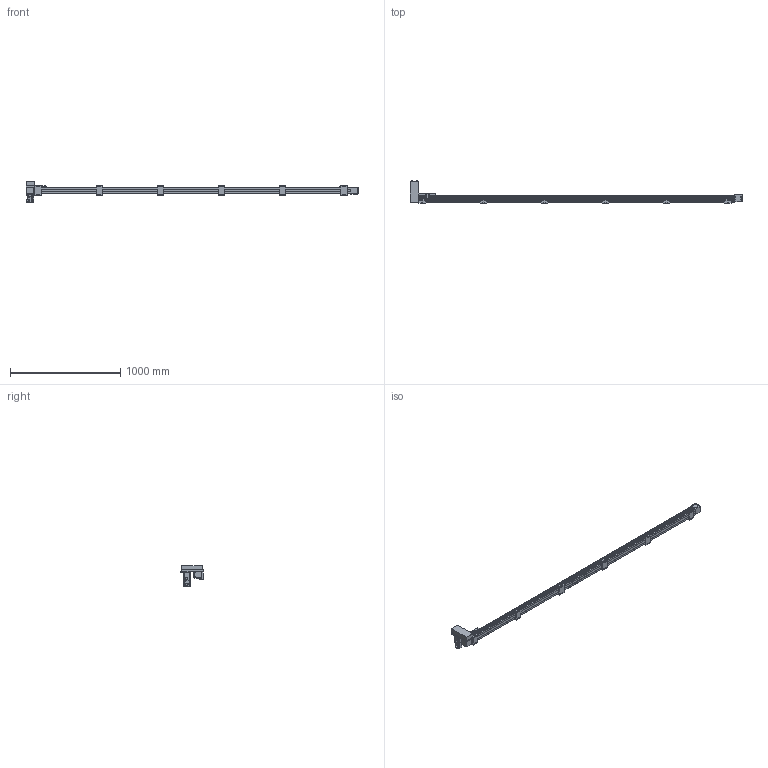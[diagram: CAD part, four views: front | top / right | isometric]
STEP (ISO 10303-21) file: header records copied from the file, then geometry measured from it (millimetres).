
FILE_DESCRIPTION(/* description */ ('STEP AP214'),/* implementation_level */ '2;1');
FILE_NAME(/* name */ 'SK60-P13-S2700-RU-T40-C1-N(0)',/* time_stamp */ '2023-04-06T05:05:48+02:00',/* author */ ('License CC BY-ND 4.0'),/* organization */ ('CADENAS'),/* preprocessor_version */ 'ST-DEVELOPER v19.3',/* originating_system */ 'PARTsolutions',/* authorisation */ ' ');
FILE_SCHEMA (('AUTOMOTIVE_DESIGN {1 0 10303 214 3 1 1}'));
Length unit declared in the file: millimetre
Products named in the file (10): SK60-P13-S2700-RU-T40-C1-N(0); PSC140-sensor; SK60-S450_seat; SK60-S450-BL-C1_slider; SK60_body3; SK60_body6; SK60-BL_body2; T40-p1; SK60-RU_fb; SK60-S2700-RU-C1_body
Assembly tree (20 placements, depth 2):
  SK60-P13-S2700-RU-T40-C1-N(0)
    PSC140-sensor  x3
    SK60-S450_seat  x6
    SK60-S450-BL-C1_slider
    SK60_body3  x3
    SK60_body6  x2
    SK60-BL_body2  x2
    T40-p1
    SK60-RU_fb
    SK60-S2700-RU-C1_body
Bounding box: 3005.5 x 201 x 189.7 mm (x, y, z)
Volume: 11416124.7 mm3; surface area: 1343947.4 mm2
Topology: 20 solids, 20 shells, 986 faces, 2440 edges, 1605 vertices
Faces by surface type: plane 620, cylinder 326, cone 38, torus 2
Full cylindrical faces by diameter (mm): 2.8 x3, 3.3 x4, 4 x2, 4.5 x30, 4.6 x3, 4.917 x32, 5 x6, 5.478 x4, 5.5 x35, 6.5 x12, 7 x2, 8 x4, 8.5 x4, 9.988 x4, 10 x24, 14 x1, 47 x3, 50 x2
Entity records: 18687 total; most frequent: DIRECTION 3192, CARTESIAN_POINT 3154, ORIENTED_EDGE 2940, EDGE_CURVE 1470, AXIS2_PLACEMENT_3D 1072, LINE 1048, VECTOR 1048, VERTEX_POINT 1034
